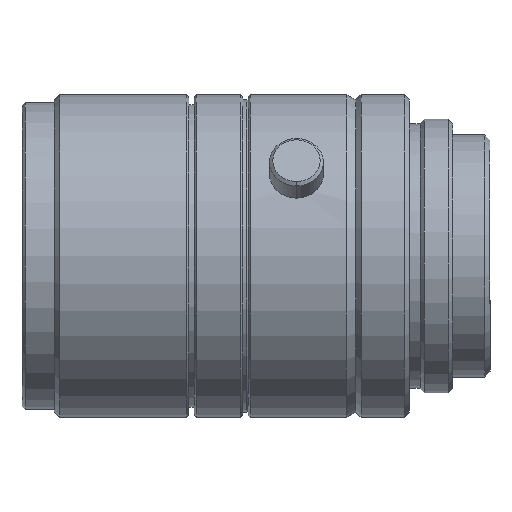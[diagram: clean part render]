
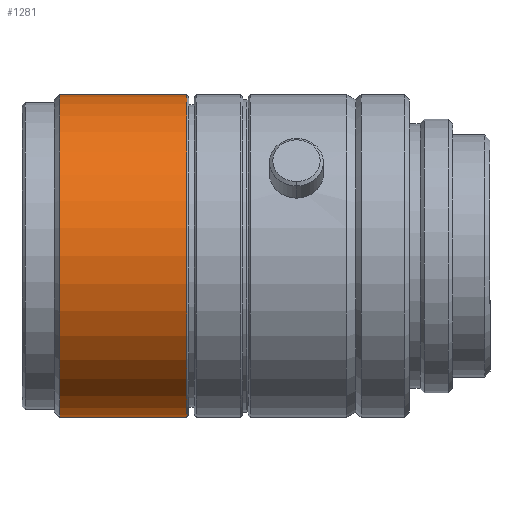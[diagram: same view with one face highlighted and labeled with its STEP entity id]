
A CAD part, top view. The second image highlights one B-rep face of the part: STEP entity #1281.
In plain terms, the highlighted cylindrical face has radius 15 mm (diameter 30 mm), a partial arc.
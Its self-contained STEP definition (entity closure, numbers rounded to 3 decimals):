
#184 = DIRECTION ( 'NONE',  ( 0., 1., 0. ) ) ;
#185 = DIRECTION ( 'NONE',  ( 1., 0., 0. ) ) ;
#188 = CARTESIAN_POINT ( 'NONE',  ( 0., 0., 0. ) ) ;
#382 = CARTESIAN_POINT ( 'NONE',  ( -38.226, 15., 0. ) ) ;
#417 = CARTESIAN_POINT ( 'NONE',  ( -38.226, -15., 0. ) ) ;
#471 = CARTESIAN_POINT ( 'NONE',  ( -50.026, -15., 0. ) ) ;
#480 = CARTESIAN_POINT ( 'NONE',  ( -50.026, 15., 0. ) ) ;
#711 = DIRECTION ( 'NONE',  ( 1., 0., 0. ) ) ;
#721 = CARTESIAN_POINT ( 'NONE',  ( 0., 15., 0. ) ) ;
#840 = ORIENTED_EDGE ( 'NONE', *, *, #2304, .F. ) ;
#960 = ORIENTED_EDGE ( 'NONE', *, *, #2376, .F. ) ;
#1064 = ORIENTED_EDGE ( 'NONE', *, *, #2339, .T. ) ;
#1106 = ORIENTED_EDGE ( 'NONE', *, *, #2375, .T. ) ;
#1281 = ADVANCED_FACE ( 'NONE', ( #2000 ), #1989, .T. ) ;
#1354 = DIRECTION ( 'NONE',  ( 1., 0., 0. ) ) ;
#1378 = CARTESIAN_POINT ( 'NONE',  ( 0., -15., 0. ) ) ;
#1400 = CARTESIAN_POINT ( 'NONE',  ( -50.026, 0., 0. ) ) ;
#1402 = DIRECTION ( 'NONE',  ( 1., 0., 0. ) ) ;
#1403 = DIRECTION ( 'NONE',  ( 0., 1., 0. ) ) ;
#1407 = CARTESIAN_POINT ( 'NONE',  ( -38.226, 0., 0. ) ) ;
#1408 = DIRECTION ( 'NONE',  ( 1., 0., 0. ) ) ;
#1410 = DIRECTION ( 'NONE',  ( 0., 1., 0. ) ) ;
#1460 = VERTEX_POINT ( 'NONE', #382 ) ;
#1542 = VERTEX_POINT ( 'NONE', #417 ) ;
#1621 = EDGE_LOOP ( 'NONE', ( #1064, #1106, #960, #840 ) ) ;
#1732 = VERTEX_POINT ( 'NONE', #471 ) ;
#1751 = VERTEX_POINT ( 'NONE', #480 ) ;
#1989 = CYLINDRICAL_SURFACE ( 'NONE', #2238, 15. ) ;
#2000 = FACE_OUTER_BOUND ( 'NONE', #1621, .T. ) ;
#2098 = AXIS2_PLACEMENT_3D ( 'NONE', #1400, #1402, #1403 ) ;
#2132 = AXIS2_PLACEMENT_3D ( 'NONE', #1407, #1408, #1410 ) ;
#2238 = AXIS2_PLACEMENT_3D ( 'NONE', #188, #185, #184 ) ;
#2304 = EDGE_CURVE ( 'NONE', #1751, #1460, #2587, .T. ) ;
#2339 = EDGE_CURVE ( 'NONE', #1751, #1732, #2655, .T. ) ;
#2375 = EDGE_CURVE ( 'NONE', #1732, #1542, #2687, .T. ) ;
#2376 = EDGE_CURVE ( 'NONE', #1460, #1542, #2940, .T. ) ;
#2587 = LINE ( 'NONE', #721, #2688 ) ;
#2655 = CIRCLE ( 'NONE', #2098, 15. ) ;
#2687 = LINE ( 'NONE', #1378, #2814 ) ;
#2688 = VECTOR ( 'NONE', #711, 1000. ) ;
#2814 = VECTOR ( 'NONE', #1354, 1000. ) ;
#2940 = CIRCLE ( 'NONE', #2132, 15. ) ;
